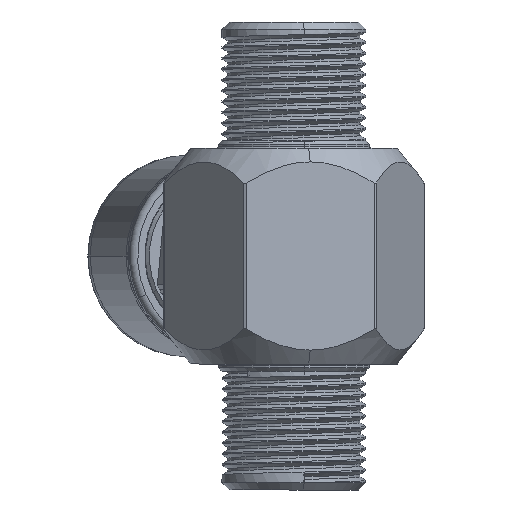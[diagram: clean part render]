
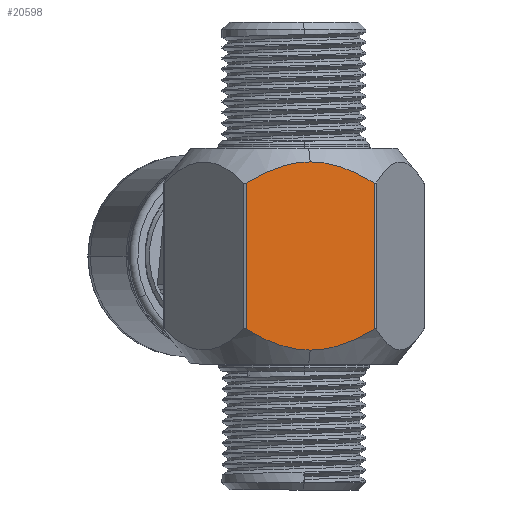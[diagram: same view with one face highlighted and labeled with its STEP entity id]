
A CAD part, front view. The second image highlights one B-rep face of the part: STEP entity #20598.
In plain terms, the highlighted planar face has unit normal (0.143, -0.99, 0) as drawn and (1, 0, 0) by its records, which use the part's own axes.
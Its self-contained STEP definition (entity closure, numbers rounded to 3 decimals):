
#617 = ORIENTED_EDGE ( 'NONE', *, *, #18498, .F. ) ;
#1114 = CARTESIAN_POINT ( 'NONE',  ( 15.9, 3.156, 12.692 ) ) ;
#1163 = DIRECTION ( 'NONE',  ( 0., 0., -1. ) ) ;
#1450 = CARTESIAN_POINT ( 'NONE',  ( 15.9, -7.578, 10.948 ) ) ;
#1537 = CARTESIAN_POINT ( 'NONE',  ( 15.9, 7.578, -10.948 ) ) ;
#1566 = CARTESIAN_POINT ( 'NONE',  ( 15.9, -5.43, 11.966 ) ) ;
#2254 = ORIENTED_EDGE ( 'NONE', *, *, #8839, .F. ) ;
#2787 = CARTESIAN_POINT ( 'NONE',  ( 15.9, 0., -13.075 ) ) ;
#3030 = CARTESIAN_POINT ( 'NONE',  ( 15.9, -5.431, -11.967 ) ) ;
#3241 = CARTESIAN_POINT ( 'NONE',  ( 15.9, 0., -13.075 ) ) ;
#3367 = CARTESIAN_POINT ( 'NONE',  ( 15.9, -7.581, -10.946 ) ) ;
#3897 = ORIENTED_EDGE ( 'NONE', *, *, #11086, .F. ) ;
#4827 = DIRECTION ( 'NONE',  ( 0., 0., 1. ) ) ;
#4857 = CARTESIAN_POINT ( 'NONE',  ( 15.9, -3.928, -12.483 ) ) ;
#5517 = DIRECTION ( 'NONE',  ( -1., 0., 0. ) ) ;
#5852 = CARTESIAN_POINT ( 'NONE',  ( 15.9, 8.958, 10.137 ) ) ;
#6022 = CARTESIAN_POINT ( 'NONE',  ( 15.9, -8.958, 10.137 ) ) ;
#6253 = CARTESIAN_POINT ( 'NONE',  ( 15.9, 0.794, 13.075 ) ) ;
#6366 = CARTESIAN_POINT ( 'NONE',  ( 15.9, 6.158, 11.652 ) ) ;
#6465 = ORIENTED_EDGE ( 'NONE', *, *, #19939, .F. ) ;
#6584 = CARTESIAN_POINT ( 'NONE',  ( 15.9, 0., 13.075 ) ) ;
#7495 = CARTESIAN_POINT ( 'NONE',  ( 15.9, -8.958, -10.137 ) ) ;
#7973 = CARTESIAN_POINT ( 'NONE',  ( 15.9, 1.584, 13. ) ) ;
#8286 = CARTESIAN_POINT ( 'NONE',  ( 15.9, 2.002, -12.924 ) ) ;
#8315 = CARTESIAN_POINT ( 'NONE',  ( 15.9, -0.399, 13.075 ) ) ;
#8581 = EDGE_CURVE ( 'NONE', #15708, #21867, #16830, .T. ) ;
#8839 = EDGE_CURVE ( 'NONE', #22008, #15025, #10917, .T. ) ;
#9202 = CARTESIAN_POINT ( 'NONE',  ( 15.9, -9.18, 15. ) ) ;
#9919 = CARTESIAN_POINT ( 'NONE',  ( 15.9, -0.798, 13.056 ) ) ;
#10005 = CARTESIAN_POINT ( 'NONE',  ( 15.9, 8.958, -10.137 ) ) ;
#10232 = CARTESIAN_POINT ( 'NONE',  ( 15.9, 1.6, -12.981 ) ) ;
#10350 = CARTESIAN_POINT ( 'NONE',  ( 15.9, -4.307, -12.363 ) ) ;
#10916 = CARTESIAN_POINT ( 'NONE',  ( 15.9, -8.958, 10.137 ) ) ;
#10917 = B_SPLINE_CURVE_WITH_KNOTS ( 'NONE', 3,
 ( #6022, #13466, #1450, #13812, #1566, #20344, #11875, #15521, #22528, #9919, #8315, #6584 ),
 .UNSPECIFIED., .F., .F.,
 ( 4, 2, 2, 2, 2, 4 ),
 ( 0.026, 0.029, 0.031, 0.033, 0.035, 0.036 ),
 .UNSPECIFIED. ) ;
#11086 = EDGE_CURVE ( 'NONE', #18268, #19244, #19646, .T. ) ;
#11635 = EDGE_LOOP ( 'NONE', ( #6465, #3897, #617, #11819, #18299, #2254 ) ) ;
#11736 = CARTESIAN_POINT ( 'NONE',  ( 15.9, -0.794, -13.075 ) ) ;
#11819 = ORIENTED_EDGE ( 'NONE', *, *, #8581, .F. ) ;
#11856 = CARTESIAN_POINT ( 'NONE',  ( 15.9, -3.156, -12.692 ) ) ;
#11875 = CARTESIAN_POINT ( 'NONE',  ( 15.9, -3.181, 12.704 ) ) ;
#11883 = CARTESIAN_POINT ( 'NONE',  ( 15.9, 3.928, 12.483 ) ) ;
#12075 = CARTESIAN_POINT ( 'NONE',  ( 15.9, -8.278, -10.554 ) ) ;
#12183 = CARTESIAN_POINT ( 'NONE',  ( 15.9, 3.943, -12.492 ) ) ;
#13466 = CARTESIAN_POINT ( 'NONE',  ( 15.9, -8.277, 10.555 ) ) ;
#13705 = CARTESIAN_POINT ( 'NONE',  ( 15.9, 0., 13.075 ) ) ;
#13812 = CARTESIAN_POINT ( 'NONE',  ( 15.9, -6.156, 11.653 ) ) ;
#13879 = LINE ( 'NONE', #16954, #14302 ) ;
#14302 = VECTOR ( 'NONE', #4827, 1000. ) ;
#14579 = DIRECTION ( 'NONE',  ( 0., -1., 0. ) ) ;
#14965 = CARTESIAN_POINT ( 'NONE',  ( 15.9, 2.762, 12.783 ) ) ;
#15025 = VERTEX_POINT ( 'NONE', #16121 ) ;
#15079 = CARTESIAN_POINT ( 'NONE',  ( 15.9, 4.307, 12.363 ) ) ;
#15263 = CARTESIAN_POINT ( 'NONE',  ( 15.9, 0.399, -13.075 ) ) ;
#15521 = CARTESIAN_POINT ( 'NONE',  ( 15.9, -2.002, 12.924 ) ) ;
#15708 = VERTEX_POINT ( 'NONE', #5852 ) ;
#15715 = CARTESIAN_POINT ( 'NONE',  ( 15.9, 0.798, -13.056 ) ) ;
#15845 = CARTESIAN_POINT ( 'NONE',  ( 15.9, 8.958, -10.137 ) ) ;
#16088 = B_SPLINE_CURVE_WITH_KNOTS ( 'NONE', 3,
 ( #10005, #22274, #1537, #22607, #16976, #12183, #17427, #8286, #10232, #15715, #15263, #3241 ),
 .UNSPECIFIED., .F., .F.,
 ( 4, 2, 2, 2, 2, 4 ),
 ( 0.026, 0.029, 0.031, 0.033, 0.035, 0.036 ),
 .UNSPECIFIED. ) ;
#16121 = CARTESIAN_POINT ( 'NONE',  ( 15.9, 0., 13.075 ) ) ;
#16830 = LINE ( 'NONE', #18676, #17664 ) ;
#16954 = CARTESIAN_POINT ( 'NONE',  ( 15.9, -8.958, -33. ) ) ;
#16976 = CARTESIAN_POINT ( 'NONE',  ( 15.9, 5.43, -11.966 ) ) ;
#17406 = B_SPLINE_CURVE_WITH_KNOTS ( 'NONE', 3,
 ( #13705, #6253, #7973, #14965, #1114, #11883, #15079, #22088, #6366, #18854, #22315, #20353 ),
 .UNSPECIFIED., .F., .F.,
 ( 4, 2, 2, 2, 2, 4 ),
 ( 0.036, 0.038, 0.039, 0.04, 0.043, 0.045 ),
 .UNSPECIFIED. ) ;
#17427 = CARTESIAN_POINT ( 'NONE',  ( 15.9, 3.181, -12.704 ) ) ;
#17664 = VECTOR ( 'NONE', #1163, 1000. ) ;
#18002 = FACE_OUTER_BOUND ( 'NONE', #11635, .T. ) ;
#18268 = VERTEX_POINT ( 'NONE', #2787 ) ;
#18299 = ORIENTED_EDGE ( 'NONE', *, *, #20495, .F. ) ;
#18498 = EDGE_CURVE ( 'NONE', #21867, #18268, #16088, .T. ) ;
#18676 = CARTESIAN_POINT ( 'NONE',  ( 15.9, 8.958, -33. ) ) ;
#18826 = CARTESIAN_POINT ( 'NONE',  ( 15.9, -6.158, -11.652 ) ) ;
#18854 = CARTESIAN_POINT ( 'NONE',  ( 15.9, 7.581, 10.946 ) ) ;
#19049 = CARTESIAN_POINT ( 'NONE',  ( 15.9, -1.584, -13. ) ) ;
#19244 = VERTEX_POINT ( 'NONE', #7495 ) ;
#19388 = PLANE ( 'NONE',  #22004 ) ;
#19646 = B_SPLINE_CURVE_WITH_KNOTS ( 'NONE', 3,
 ( #20905, #11736, #19049, #20562, #11856, #4857, #10350, #3030, #18826, #3367, #12075, #22618 ),
 .UNSPECIFIED., .F., .F.,
 ( 4, 2, 2, 2, 2, 4 ),
 ( 0.036, 0.038, 0.039, 0.04, 0.043, 0.045 ),
 .UNSPECIFIED. ) ;
#19939 = EDGE_CURVE ( 'NONE', #19244, #22008, #13879, .T. ) ;
#20344 = CARTESIAN_POINT ( 'NONE',  ( 15.9, -3.943, 12.492 ) ) ;
#20353 = CARTESIAN_POINT ( 'NONE',  ( 15.9, 8.958, 10.137 ) ) ;
#20495 = EDGE_CURVE ( 'NONE', #15025, #15708, #17406, .T. ) ;
#20562 = CARTESIAN_POINT ( 'NONE',  ( 15.9, -2.762, -12.783 ) ) ;
#20598 = ADVANCED_FACE ( 'NONE', ( #18002 ), #19388, .F. ) ;
#20905 = CARTESIAN_POINT ( 'NONE',  ( 15.9, 0., -13.075 ) ) ;
#21867 = VERTEX_POINT ( 'NONE', #15845 ) ;
#22004 = AXIS2_PLACEMENT_3D ( 'NONE', #9202, #5517, #14579 ) ;
#22008 = VERTEX_POINT ( 'NONE', #10916 ) ;
#22088 = CARTESIAN_POINT ( 'NONE',  ( 15.9, 5.431, 11.967 ) ) ;
#22274 = CARTESIAN_POINT ( 'NONE',  ( 15.9, 8.277, -10.555 ) ) ;
#22315 = CARTESIAN_POINT ( 'NONE',  ( 15.9, 8.278, 10.554 ) ) ;
#22528 = CARTESIAN_POINT ( 'NONE',  ( 15.9, -1.6, 12.981 ) ) ;
#22607 = CARTESIAN_POINT ( 'NONE',  ( 15.9, 6.156, -11.653 ) ) ;
#22618 = CARTESIAN_POINT ( 'NONE',  ( 15.9, -8.958, -10.137 ) ) ;
